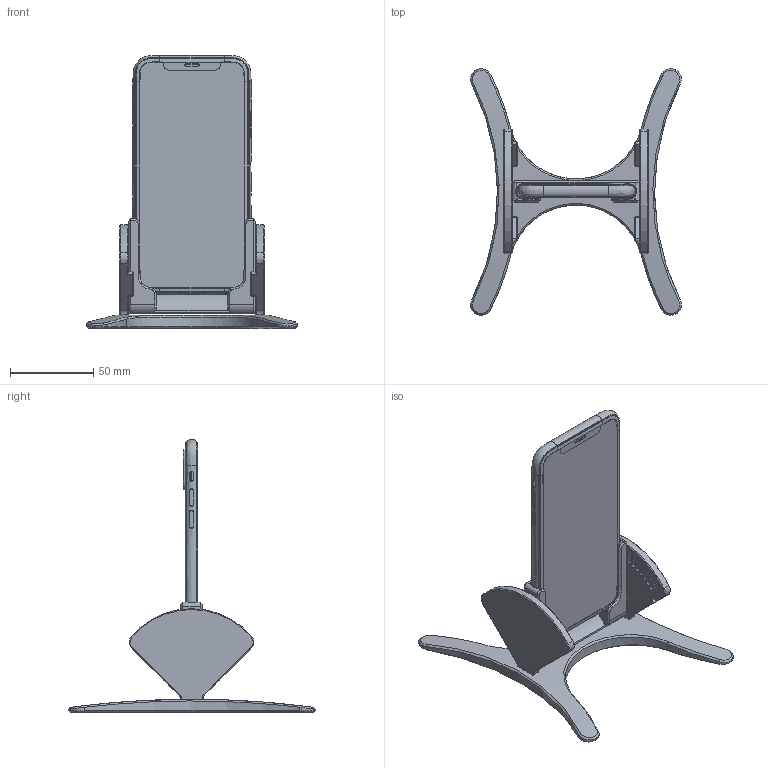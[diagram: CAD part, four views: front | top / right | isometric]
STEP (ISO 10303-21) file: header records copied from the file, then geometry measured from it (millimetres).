
FILE_DESCRIPTION(/* description */ (''),/* implementation_level */ '2;1');
FILE_NAME(/* name */ '/Users/blaise/Desktop/Instagram Live Stream iPhone X stand/Support iPhone x v18.step',/* time_stamp */ '2020-08-29T16:42:52-04:00',/* author */ (''),/* organization */ (''),/* preprocessor_version */ 'ST-DEVELOPER v18.1',/* originating_system */ 'Autodesk Translation Framework v9.3.0.1241',/* authorisation */ '');
FILE_SCHEMA (('AUTOMOTIVE_DESIGN { 1 0 10303 214 3 1 1 }'));
Products named in the file (6): Support iPhone x; Cradle; Base side; Base; iPhone X; Base side(Mirror)
Assembly tree (5 placements, depth 2):
  Support iPhone x
    Cradle
    Base side
    Base
    iPhone X
    Base side(Mirror)
Bounding box: 126.39 x 147.8 x 163.91 mm (x, y, z)
Volume: 158594.1 mm3; surface area: 104776.9 mm2
Topology: 34 solids, 34 shells, 846 faces, 1945 edges, 1230 vertices
Faces by surface type: plane 368, bspline 168, cylinder 167, cone 131, torus 10, sphere 2
Full cylindrical faces by diameter (mm): 1.044 x1, 1.1 x1, 1.45 x24, 1.6 x2, 1.7 x2, 2.48 x1, 2.5 x1, 3 x1, 3.003 x1, 3.81 x2, 4.25 x2, 4.41 x1, 5.08 x4
Entity records: 45718 total; most frequent: CARTESIAN_POINT 27157, ORIENTED_EDGE 3886, DIRECTION 3495, EDGE_CURVE 1943, AXIS2_PLACEMENT_3D 1251, VERTEX_POINT 1230, LINE 993, VECTOR 993
